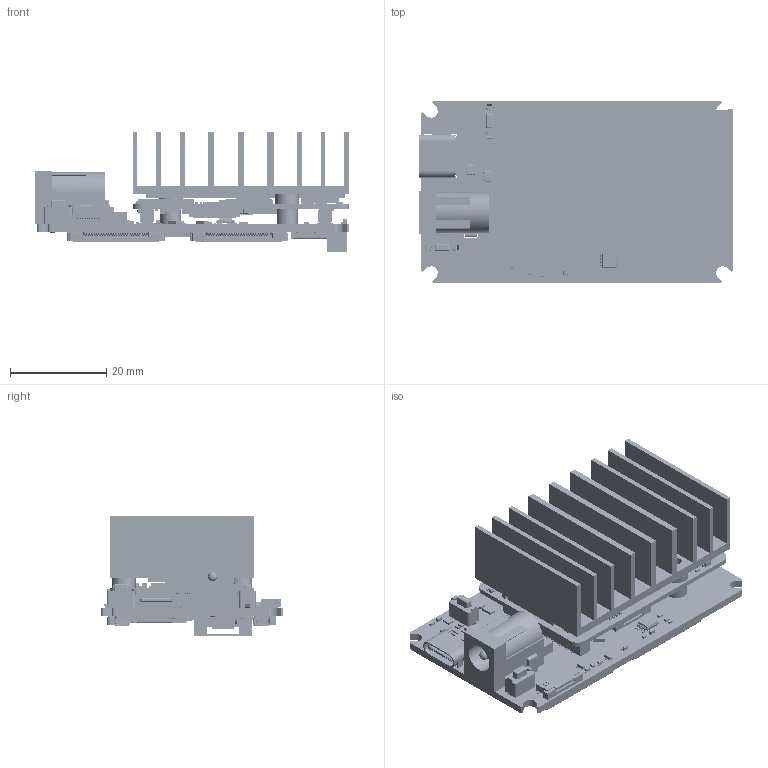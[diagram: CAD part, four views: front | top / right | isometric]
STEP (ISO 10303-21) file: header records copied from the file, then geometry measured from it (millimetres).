
FILE_DESCRIPTION (( 'STEP AP203' ), '1' );
FILE_NAME ('DD2090_4CAM_FFC_DM2199-V2.STEP', '2023-04-17T12:28:58', ( '' ), ( '' ), 'SwSTEP 2.0', 'SolidWorks 2022', '' );
FILE_SCHEMA (( 'CONFIG_CONTROL_DESIGN' ));
Products named in the file (1): DD2090_4CAM_FFC_DM2199-V2
Bounding box: 65.4 x 38 x 24.96 mm (x, y, z)
Surface area: 30257.5 mm2 (no closed solid volume)
Topology: 0 solids, 1165 shells, 28437 faces, 76254 edges, 50573 vertices
Faces by surface type: plane 21449, cylinder 6592, bspline 150, sphere 124, torus 86, cone 36
Entity records: 891704 total; most frequent: CARTESIAN_POINT 182244, ORIENTED_EDGE 151964, DIRECTION 139431, EDGE_CURVE 76187, VECTOR 58225, LINE 58225, VERTEX_POINT 50570, AXIS2_PLACEMENT_3D 40603
